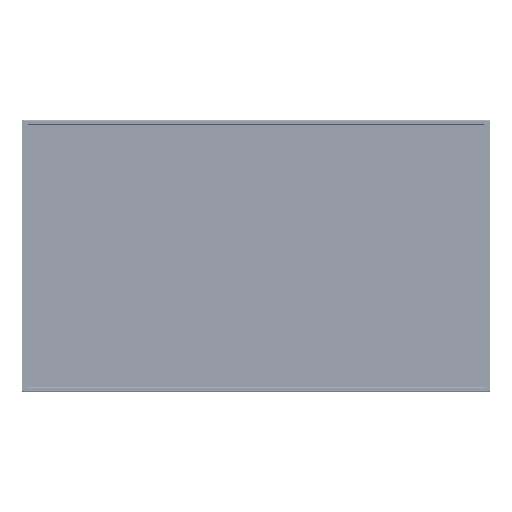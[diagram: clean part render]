
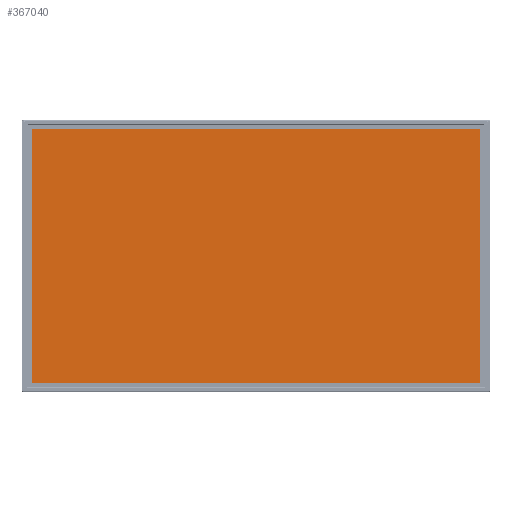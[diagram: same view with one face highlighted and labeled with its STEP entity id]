
A CAD part, top view. The second image highlights one B-rep face of the part: STEP entity #367040.
In plain terms, the highlighted planar face has unit normal (0, 0, 1).
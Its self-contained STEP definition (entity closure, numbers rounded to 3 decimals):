
#4195 = LINE ( 'NONE', #315082, #58746 ) ;
#7205 = VERTEX_POINT ( 'NONE', #30675 ) ;
#18545 = VECTOR ( 'NONE', #298668, 1000. ) ;
#25051 = DIRECTION ( 'NONE',  ( 0., 1., 0. ) ) ;
#30675 = CARTESIAN_POINT ( 'NONE',  ( 825.675, 465.275, 2. ) ) ;
#36971 = CARTESIAN_POINT ( 'NONE',  ( -825.675, -465.275, 2. ) ) ;
#58746 = VECTOR ( 'NONE', #153515, 1000. ) ;
#64797 = LINE ( 'NONE', #179208, #111991 ) ;
#77114 = LINE ( 'NONE', #228833, #18545 ) ;
#79899 = AXIS2_PLACEMENT_3D ( 'NONE', #420282, #425180, #231241 ) ;
#111991 = VECTOR ( 'NONE', #25051, 1000. ) ;
#139946 = CARTESIAN_POINT ( 'NONE',  ( -825.675, -465.275, 2. ) ) ;
#153515 = DIRECTION ( 'NONE',  ( -1., 0., 0. ) ) ;
#171541 = CARTESIAN_POINT ( 'NONE',  ( -825.675, 465.275, 2. ) ) ;
#172244 = ORIENTED_EDGE ( 'NONE', *, *, #425869, .T. ) ;
#174977 = EDGE_CURVE ( 'NONE', #412194, #455077, #77114, .T. ) ;
#179208 = CARTESIAN_POINT ( 'NONE',  ( 825.675, 465.275, 2. ) ) ;
#180715 = VECTOR ( 'NONE', #324098, 1000. ) ;
#182460 = ORIENTED_EDGE ( 'NONE', *, *, #174977, .T. ) ;
#218417 = EDGE_CURVE ( 'NONE', #7205, #412194, #4195, .T. ) ;
#228833 = CARTESIAN_POINT ( 'NONE',  ( -825.675, 465.275, 2. ) ) ;
#231241 = DIRECTION ( 'NONE',  ( 1., 0., 0. ) ) ;
#298668 = DIRECTION ( 'NONE',  ( 0., -1., 0. ) ) ;
#315082 = CARTESIAN_POINT ( 'NONE',  ( -825.675, 465.275, 2. ) ) ;
#324098 = DIRECTION ( 'NONE',  ( 1., 0., 0. ) ) ;
#331423 = LINE ( 'NONE', #139946, #180715 ) ;
#352464 = VERTEX_POINT ( 'NONE', #356624 ) ;
#356624 = CARTESIAN_POINT ( 'NONE',  ( 825.675, -465.275, 2. ) ) ;
#361961 = ORIENTED_EDGE ( 'NONE', *, *, #481543, .T. ) ;
#365907 = EDGE_LOOP ( 'NONE', ( #436794, #182460, #172244, #361961 ) ) ;
#367040 = ADVANCED_FACE ( 'NONE', ( #415412 ), #417821, .T. ) ;
#412194 = VERTEX_POINT ( 'NONE', #171541 ) ;
#415412 = FACE_OUTER_BOUND ( 'NONE', #365907, .T. ) ;
#417821 = PLANE ( 'NONE',  #79899 ) ;
#420282 = CARTESIAN_POINT ( 'NONE',  ( 0., 0., 2. ) ) ;
#425180 = DIRECTION ( 'NONE',  ( 0., 0., 1. ) ) ;
#425869 = EDGE_CURVE ( 'NONE', #455077, #352464, #331423, .T. ) ;
#436794 = ORIENTED_EDGE ( 'NONE', *, *, #218417, .T. ) ;
#455077 = VERTEX_POINT ( 'NONE', #36971 ) ;
#481543 = EDGE_CURVE ( 'NONE', #352464, #7205, #64797, .T. ) ;
